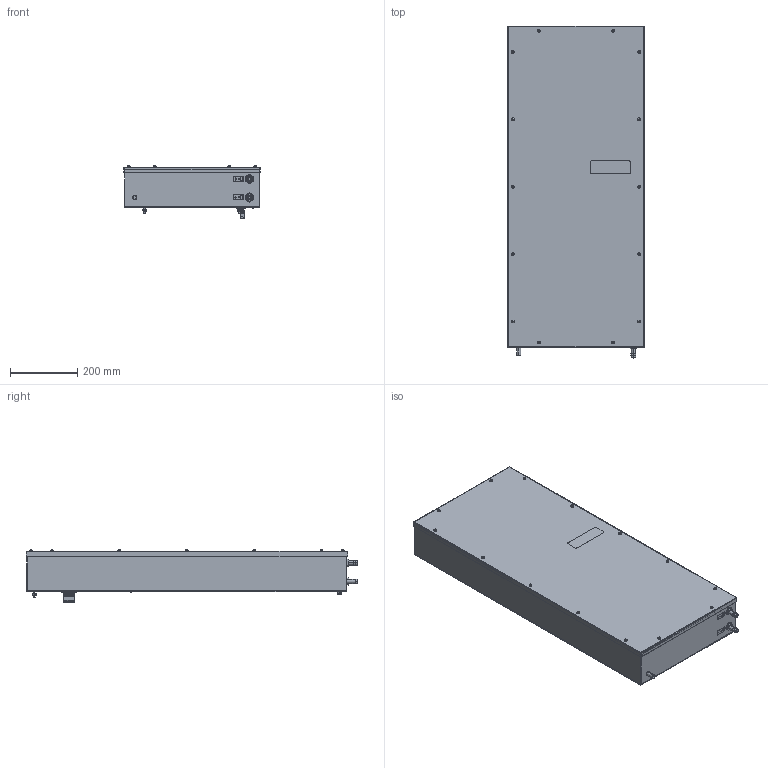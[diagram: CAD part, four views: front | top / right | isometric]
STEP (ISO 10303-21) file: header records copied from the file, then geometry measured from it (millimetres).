
FILE_DESCRIPTION (( 'STEP AP203' ), '1' );
FILE_NAME ('PWS 7152 230V und 115V.STEP', '2008-08-05T06:22:26', ( 'Pfannenberg' ), ( 'Pfannenberg GmbH' ), 'SwSTEP 2.0', 'SolidWorks 2007', '' );
FILE_SCHEMA (( 'CONFIG_CONTROL_DESIGN' ));
Length unit declared in the file: millimetre
Products named in the file (37): Vulkangitter_005079102  260x260; Einschraubtülle für Schlauch_050380073 Schlauchtülle G3-8 Ø12; 025500847 Wago 231-606_019-000_Standard; Gerade Aufschraubverschraubung_050380072  Aufschraubverschraubung G3-8; Blindniet_020140201  4.0x11 K12 Maxi; Blindniet_020140206  4.0x6 K8 Al-St; Blindniet_020140209  4.0x12 K8 Al-A2; 30087-011_Standard; Scheibe unverlierbar_020200000 Scheibe unverlierbar 4,3; Blechschraube mit Linsenkopf und Kreuzschlitz - DIN 7981_020100661 Schraube 4.2x16 St zn  DIN 7981; Hex Nut Style 1 GradeAB_Pfannenberg GmbH_Hexagon Nut ISO 4032 - M6 - D - N; Slotted Set Screw Flat Point_Pfannenberg GmbH_ISO 4766 - M6 x 30-N; Hex Screw GradeC_Pfannenberg GmbH_ISO 4018 - M6 x 25-WN; PWS 7152  230V und 115V; 30090-100_000740146 PWS 7152 montiert 230V 7035; 30090-102_000740141 Gehäuse PWS 7152 230V 7035; 30090-021_Standard; Einstr鰉d黶en_011225531  96358-2-4013; 030600204-1  Thermostat Jumo-Körper_Standard; 025510035_Erdungsfahne 6-fach_Standard; Dichtring Gasfalit_050200843  Dichtring Gasfalit R3-8 1mm; Sicherungsscheibe Schnorr_020200370  S3 St Schnorr; Flachkopfschraube mit Kreutzschlitz - DIN EN ISO 7045_ISO 7045 - M3 x 6 - Z --- 6N; 020102025  PT.LIKO VZ 3,5x10 Kopf Ø5; Blindniet_020140240  4.8x16.9 K15.6; Blindnietmutter  Sechskant offen_020140030 M6x14,5 6kt offen St; 30090-012_Standard; 30043-015_Standard; 11189-420-085000065_Standard; 11189-420-085000066_Standard; 11189-421_Standard; 11189-294_Standard; 11189-433_Standard; 025500846 Wago 231-106_026-000_Standard; Plain Washer Grade A_Pfannenberg GmbH_Washer DIN 125 - A 6.4; Federringe - DIN 127_020200130  Federring B6,0 St zn  DIN 127; 015000011 2.8m im Beipack PWS 7152-1 7332-1_Standard
Assembly tree (80 placements, depth 4):
  PWS 7152  230V und 115V
    015000011 2.8m im Beipack PWS 7152-1 7332-1_Standard
    Hex Nut Style 1 GradeAB_Pfannenberg GmbH_Hexagon Nut ISO 4032 - M6 - D - N  x2
    Slotted Set Screw Flat Point_Pfannenberg GmbH_ISO 4766 - M6 x 30-N  x2
    30090-100_000740146 PWS 7152 montiert 230V 7035
      Scheibe unverlierbar_020200000 Scheibe unverlierbar 4,3  x14
      11189-433_Standard
      Blechschraube mit Linsenkopf und Kreuzschlitz - DIN 7981_020100661 Schraube 4.2x16 St zn  DIN 7981  x14
      11189-420-085000065_Standard
      30090-102_000740141 Gehäuse PWS 7152 230V 7035
        Blindniet_020140240  4.8x16.9 K15.6  x2
        Flachkopfschraube mit Kreutzschlitz - DIN EN ISO 7045_ISO 7045 - M3 x 6 - Z --- 6N  x2
        020102025  PT.LIKO VZ 3,5x10 Kopf Ø5  x2
        Blindniet_020140209  4.0x12 K8 Al-A2  x3
        Sicherungsscheibe Schnorr_020200370  S3 St Schnorr  x2
        Einstr鰉d黶en_011225531  96358-2-4013
        Einschraubtülle für Schlauch_050380073 Schlauchtülle G3-8 Ø12  x2
        Blindniet_020140201  4.0x11 K12 Maxi  x4
        Blindnietmutter  Sechskant offen_020140030 M6x14,5 6kt offen St  x4
        30090-012_Standard
        Vulkangitter_005079102  260x260
        30043-015_Standard
        30090-021_Standard
        Gerade Aufschraubverschraubung_050380072  Aufschraubverschraubung G3-8  x2
        025510035_Erdungsfahne 6-fach_Standard
        Blindniet_020140206  4.0x6 K8 Al-St
        Dichtring Gasfalit_050200843  Dichtring Gasfalit R3-8 1mm  x2
        025500847 Wago 231-606_019-000_Standard
        030600204-1  Thermostat Jumo-Körper_Standard
      11189-421_Standard
      11189-420-085000066_Standard
      11189-294_Standard
      30087-011_Standard
    Hex Screw GradeC_Pfannenberg GmbH_ISO 4018 - M6 x 25-WN  x2
    Plain Washer Grade A_Pfannenberg GmbH_Washer DIN 125 - A 6.4
    025500846 Wago 231-106_026-000_Standard
    Federringe - DIN 127_020200130  Federring B6,0 St zn  DIN 127
Bounding box: 404 x 985 x 155.7 mm (x, y, z)
Volume: 1514914.4 mm3; surface area: 2735177.2 mm2
Topology: 80 solids, 80 shells, 2891 faces, 7282 edges, 4666 vertices
Faces by surface type: plane 1746, cylinder 656, bspline 195, cone 180, sphere 68, torus 46
Entity records: 72428 total; most frequent: CARTESIAN_POINT 20377, ORIENTED_EDGE 9854, DIRECTION 9234, EDGE_CURVE 4927, VECTOR 3448, LINE 3448, VERTEX_POINT 3180, AXIS2_PLACEMENT_3D 2893
